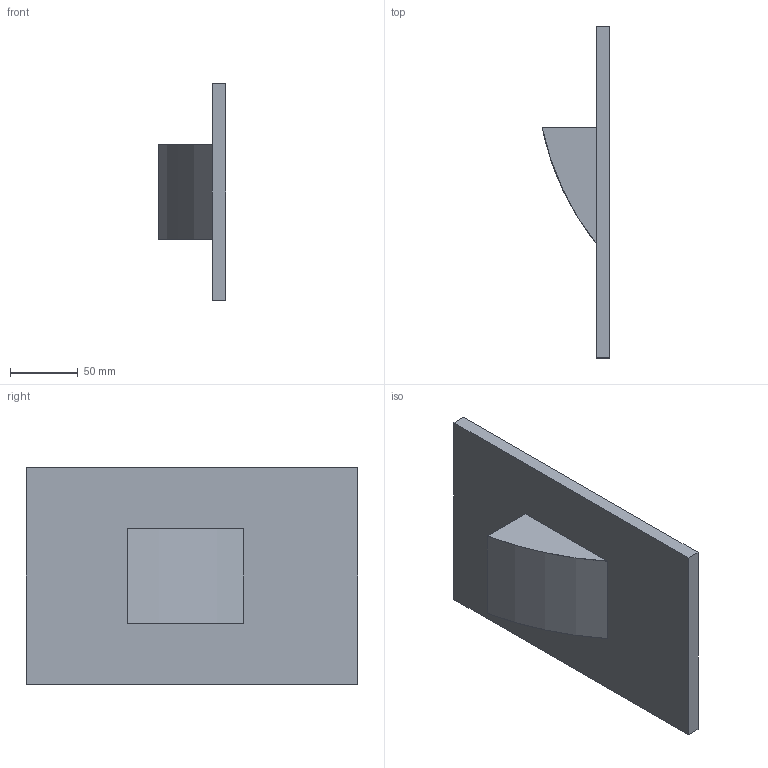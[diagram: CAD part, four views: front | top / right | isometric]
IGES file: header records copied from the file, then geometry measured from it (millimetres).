
Start section: SolidWorks IGES file using analytic representation for surfaces
Global section: file name: C:\Users\Stagiaire\Desktop\Rendu 3D\SLOT XL\3031 SLOT XL1\3031_SLOT_XL1.IGS; native system: SolidWorks 2014; preprocessor: SolidWorks 2014; author: Stagiaire; date: 140915.122140; units: millimetre
Bounding box: 50 x 245 x 160 mm (x, y, z)
Surface area: 101892.9 mm2 (no closed solid volume)
Topology: 0 solids, 0 shells, 14 faces, 88 edges, 88 vertices
Faces by surface type: bspline 12, revolution 2
